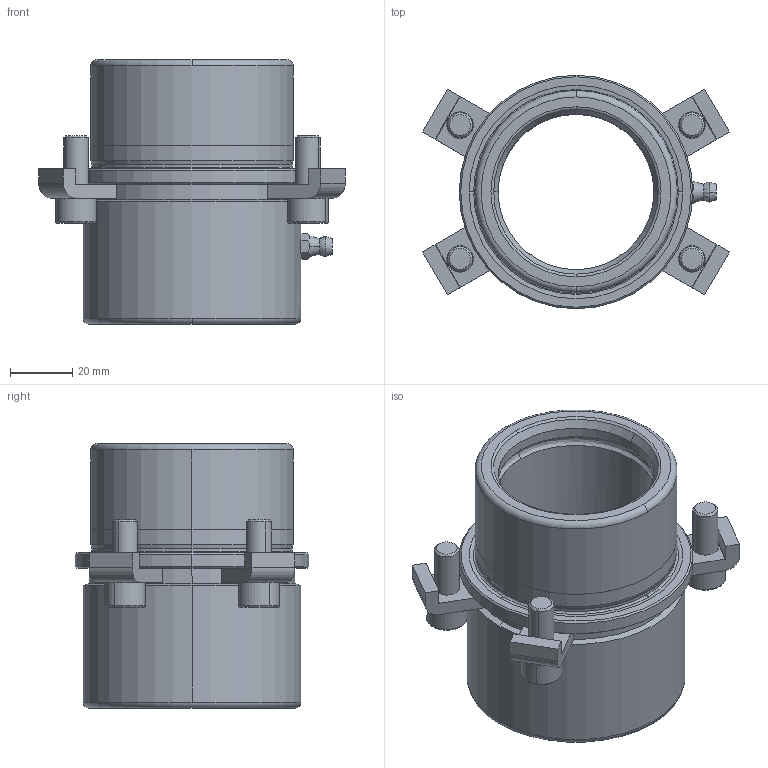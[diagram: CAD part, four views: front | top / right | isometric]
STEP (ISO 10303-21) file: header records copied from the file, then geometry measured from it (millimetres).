
FILE_DESCRIPTION((''),'2;1');
FILE_NAME('B10_050_050.stp','2008-11-06T09:04:43',(''),(''),'Mechanical Desktop 2009','Mechanical Desktop 2009',', , ');
FILE_SCHEMA(('CONFIG_CONTROL_DESIGN'));
Length unit declared in the file: millimetre
Products named in the file (2): Product; blmdl1
Assembly tree (1 placements, depth 2):
  Product
    blmdl1
Bounding box: 98.54 x 75 x 85 mm (x, y, z)
Volume: 153232.5 mm3; surface area: 46161.4 mm2
Topology: 10 solids, 10 shells, 202 faces, 505 edges, 332 vertices
Faces by surface type: plane 82, cylinder 60, cone 24, bspline 18, torus 18
Entity records: 7380 total; most frequent: CARTESIAN_POINT 2302, DIRECTION 1111, ORIENTED_EDGE 1002, EDGE_CURVE 501, AXIS2_PLACEMENT_3D 441, VERTEX_POINT 330, CIRCLE 255, VECTOR 229
